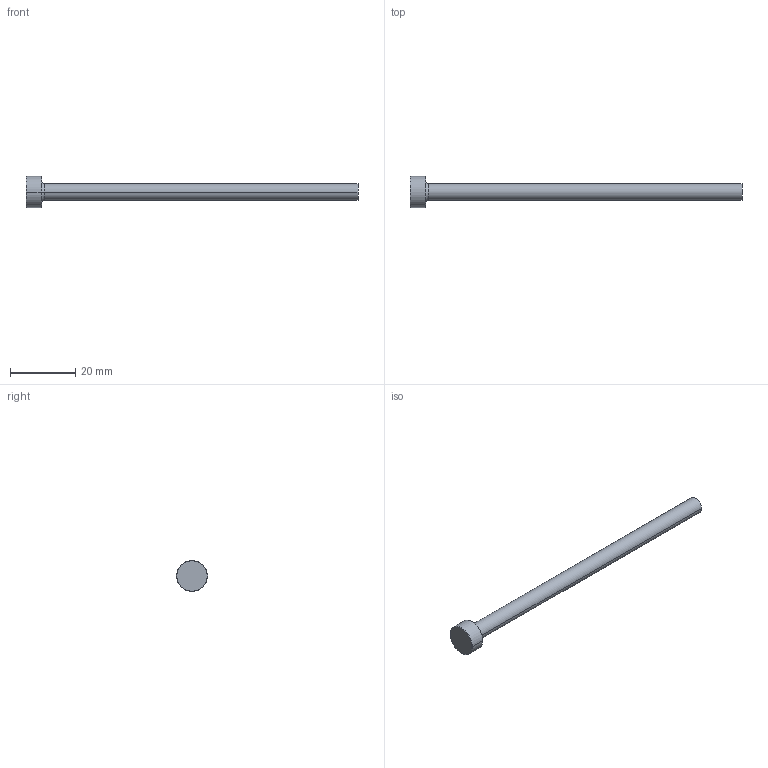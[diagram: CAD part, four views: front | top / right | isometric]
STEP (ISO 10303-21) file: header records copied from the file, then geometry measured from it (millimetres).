
FILE_DESCRIPTION (( 'STEP AP214' ), '1' );
FILE_NAME ('P14-4.STEP', '2020-03-11T18:24:07', ( '' ), ( '' ), 'SwSTEP 2.0', 'SolidWorks 2018', '' );
FILE_SCHEMA (( 'AUTOMOTIVE_DESIGN' ));
Length unit declared in the file: inch
Products named in the file (1): P14-4
Bounding box: 101.6 x 9.53 x 9.53 mm (x, y, z)
Volume: 2359.8 mm3; surface area: 1843.7 mm2
Topology: 1 solids, 1 shells, 13 faces, 24 edges, 14 vertices
Faces by surface type: cone 4, cylinder 4, plane 3, torus 2
Entity records: 366 total; most frequent: DIRECTION 68, CARTESIAN_POINT 52, ORIENTED_EDGE 48, AXIS2_PLACEMENT_3D 30, EDGE_CURVE 24, CIRCLE 16, EDGE_LOOP 14, VERTEX_POINT 14
